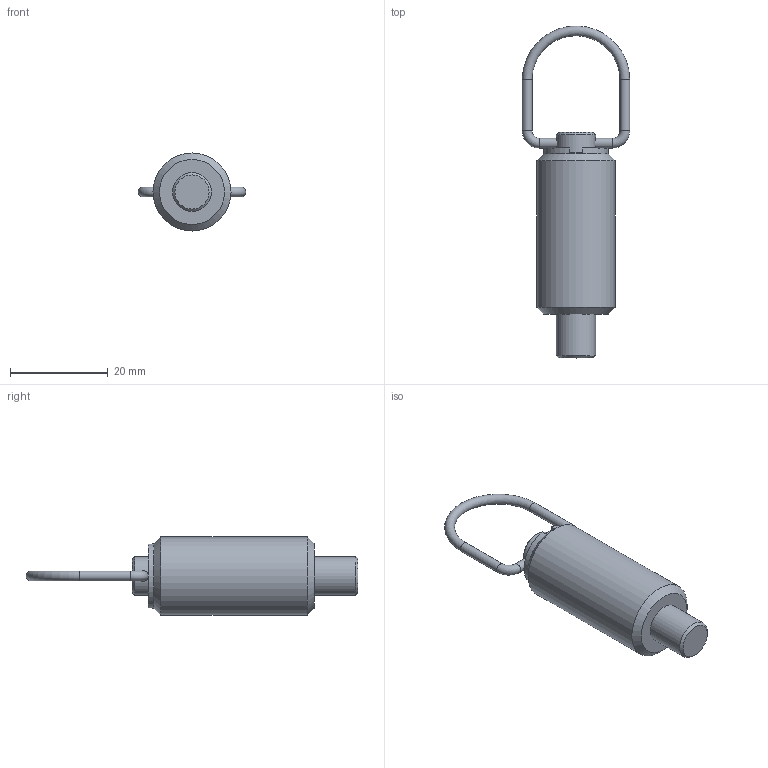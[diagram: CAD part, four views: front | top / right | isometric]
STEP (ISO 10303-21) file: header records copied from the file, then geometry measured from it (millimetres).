
FILE_DESCRIPTION( ( 'STEP AP203' ), '1' );
FILE_NAME( 'C:/Temp/Ganter_Step_05_03_2020/data/3_1/gn_413/gn413_ni/gn413_ni_a/Stainless Steel Indexing plunger GN 413-8-M16-A-NI (deactivated).stp', '2020-03-12T09:11:03', ( 'License CC BY-ND 4.0' ), ( 'CADENAS' ), ' ', 'PARTsolutions', ' ' );
FILE_SCHEMA( ( 'CONFIG_CONTROL_DESIGN' ) );
Length unit declared in the file: millimetre
Products named in the file (3): Stainless Steel Indexing plunger GN 413-8-M16-A-NI (deactivated); _Stainless Steel Indexing plunger GN 413-8-M16-A-NI (deactivated)_f; _Stainless Steel Indexing plunger  GN 413-8-M16-A-NI (deactivated)_b
Assembly tree (2 placements, depth 2):
  Stainless Steel Indexing plunger GN 413-8-M16-A-NI (deactivated)
    _Stainless Steel Indexing plunger GN 413-8-M16-A-NI (deactivated)_f
    _Stainless Steel Indexing plunger  GN 413-8-M16-A-NI (deactivated)_b
Bounding box: 22 x 68 x 16 mm (x, y, z)
Volume: 7000.4 mm3; surface area: 4735 mm2
Topology: 2 solids, 2 shells, 38 faces, 80 edges, 50 vertices
Faces by surface type: plane 16, cylinder 13, cone 6, torus 3
Full cylindrical faces by diameter (mm): 2 x4, 8 x4, 8.3 x1, 11 x2, 13.2 x1, 16 x1
Entity records: 1050 total; most frequent: CARTESIAN_POINT 213, DIRECTION 168, ORIENTED_EDGE 106, AXIS2_PLACEMENT_3D 76, EDGE_LOOP 68, FACE_OUTER_BOUND 54, EDGE_CURVE 53, VERTEX_POINT 45
